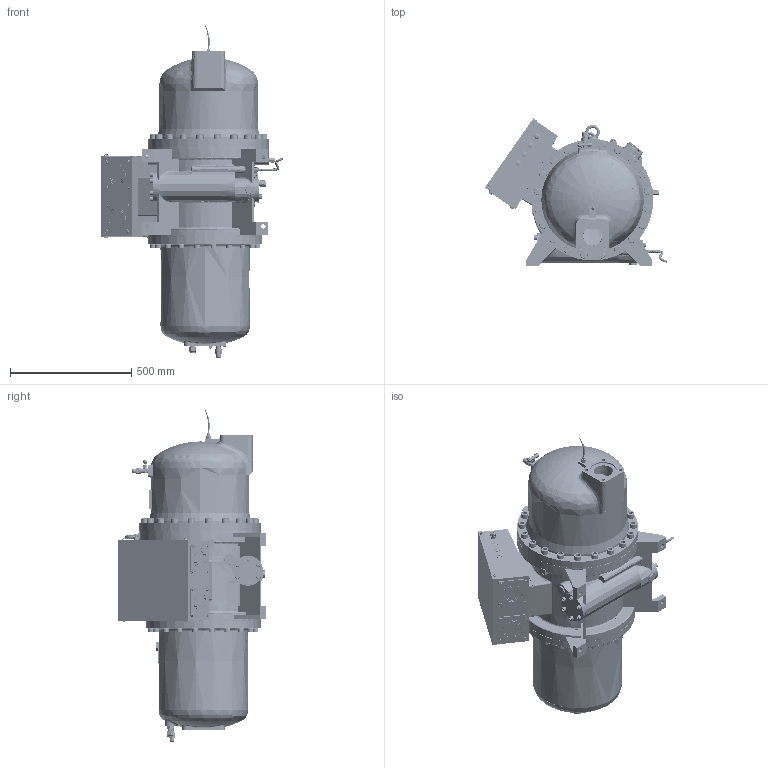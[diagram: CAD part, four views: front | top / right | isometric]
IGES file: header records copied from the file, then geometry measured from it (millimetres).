
Start section: SolidWorks IGES file using analytic representation for surfaces
Global section: file name: \\Datacenterrd1\@研發部\設計一課(冷媒)\(1)-文管中心\(2)-3D文管\(8)-Compressor 3Doutline(Surface)\RC2\RC2-BF\IGS\RC2-340BF outline.IGS; native system: SolidWorks 2013; preprocessor: SolidWorks 2013; author: hedylu; date: 141226.140900; units: centimetre
Bounding box: 752 x 608.38 x 1370.94 mm (x, y, z)
Surface area: 4149192.3 mm2 (no closed solid volume)
Topology: 0 solids, 0 shells, 2707 faces, 55167 edges, 55151 vertices
Faces by surface type: bspline 1721, revolution 986
